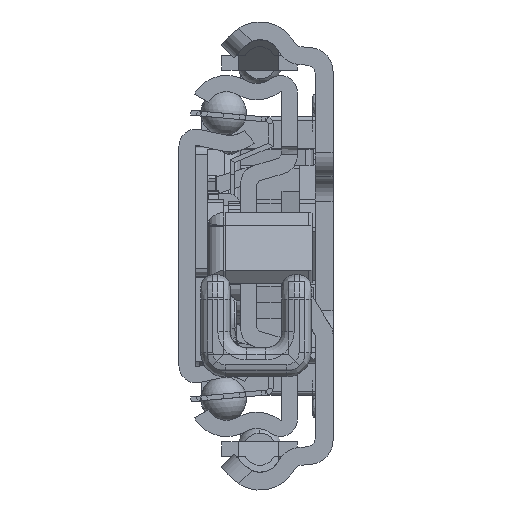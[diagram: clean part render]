
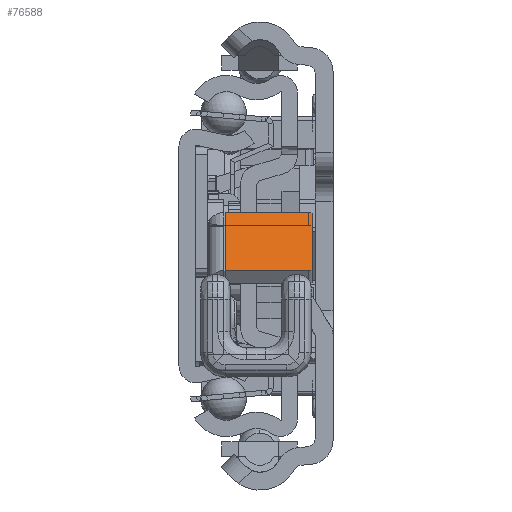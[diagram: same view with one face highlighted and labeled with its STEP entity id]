
A CAD part, left-side view. The second image highlights one B-rep face of the part: STEP entity #76588.
In plain terms, the highlighted planar face has unit normal (-0.597, 0, 0.802) as drawn and (-0.597, -0.802, 0) by its records, which use the part's own axes.
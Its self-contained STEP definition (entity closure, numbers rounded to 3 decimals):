
#75976=DIRECTION('',(0.802,-0.597,0.));
#75977=VECTOR('',#75976,12.);
#75978=CARTESIAN_POINT('',(31.957,-10.314,-0.2));
#75979=LINE('',#75978,#75977);
#76004=DIRECTION('',(0.,0.,1.));
#76005=VECTOR('',#76004,10.3);
#76006=CARTESIAN_POINT('',(41.586,-17.476,-10.5));
#76007=LINE('',#76006,#76005);
#76008=CARTESIAN_POINT('',(41.184,-17.178,-10.5));
#76009=DIRECTION('',(-0.597,-0.802,0.));
#76010=DIRECTION('',(0.,0.,-1.));
#76011=AXIS2_PLACEMENT_3D('',#76008,#76009,#76010);
#76013=DIRECTION('',(0.802,-0.597,0.));
#76014=VECTOR('',#76013,11.);
#76015=CARTESIAN_POINT('',(32.358,-10.613,-11.));
#76016=LINE('',#76015,#76014);
#76017=CARTESIAN_POINT('',(32.358,-10.613,-10.5));
#76018=DIRECTION('',(-0.597,-0.802,0.));
#76019=DIRECTION('',(-0.802,0.597,0.));
#76020=AXIS2_PLACEMENT_3D('',#76017,#76018,#76019);
#76022=DIRECTION('',(0.,0.,-1.));
#76023=VECTOR('',#76022,10.3);
#76024=CARTESIAN_POINT('',(31.957,-10.314,-0.2));
#76025=LINE('',#76024,#76023);
#76242=CARTESIAN_POINT('',(31.957,-10.314,-0.2));
#76243=CARTESIAN_POINT('',(41.586,-17.476,-0.2));
#76244=VERTEX_POINT('',#76242);
#76245=VERTEX_POINT('',#76243);
#76274=CARTESIAN_POINT('',(41.586,-17.476,-10.5));
#76275=VERTEX_POINT('',#76274);
#76276=CARTESIAN_POINT('',(32.358,-10.613,-11.));
#76277=CARTESIAN_POINT('',(41.184,-17.178,-11.));
#76278=VERTEX_POINT('',#76276);
#76279=VERTEX_POINT('',#76277);
#76280=CARTESIAN_POINT('',(31.957,-10.314,-10.5));
#76281=VERTEX_POINT('',#76280);
#76570=CARTESIAN_POINT('',(34.726,-12.374,2.));
#76571=DIRECTION('',(0.597,0.802,0.));
#76572=DIRECTION('',(0.802,-0.597,0.));
#76573=AXIS2_PLACEMENT_3D('',#76570,#76571,#76572);
#76574=PLANE('',#76573);
#76576=ORIENTED_EDGE('',*,*,#76575,.F.);
#76578=ORIENTED_EDGE('',*,*,#76577,.F.);
#76580=ORIENTED_EDGE('',*,*,#76579,.F.);
#76582=ORIENTED_EDGE('',*,*,#76581,.F.);
#76584=ORIENTED_EDGE('',*,*,#76583,.F.);
#76585=ORIENTED_EDGE('',*,*,#76557,.T.);
#76586=EDGE_LOOP('',(#76576,#76578,#76580,#76582,#76584,#76585));
#76587=FACE_OUTER_BOUND('',#76586,.F.);
#76012=CIRCLE('',#76011,0.5);
#76021=CIRCLE('',#76020,0.5);
#76557=EDGE_CURVE('',#76244,#76245,#75979,.T.);
#76575=EDGE_CURVE('',#76275,#76245,#76007,.T.);
#76577=EDGE_CURVE('',#76279,#76275,#76012,.T.);
#76579=EDGE_CURVE('',#76278,#76279,#76016,.T.);
#76581=EDGE_CURVE('',#76281,#76278,#76021,.T.);
#76583=EDGE_CURVE('',#76244,#76281,#76025,.T.);
#76588=ADVANCED_FACE('',(#76587),#76574,.F.);
